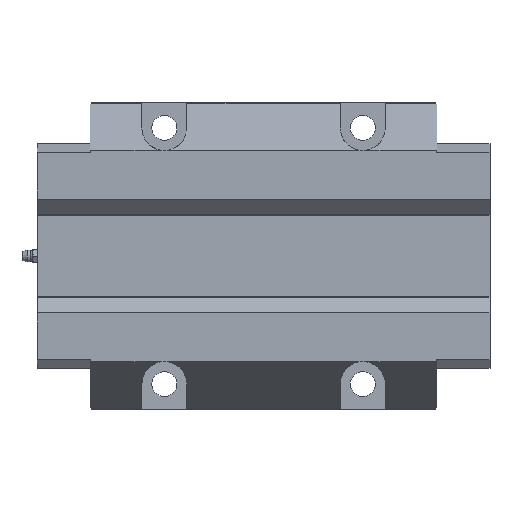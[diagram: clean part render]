
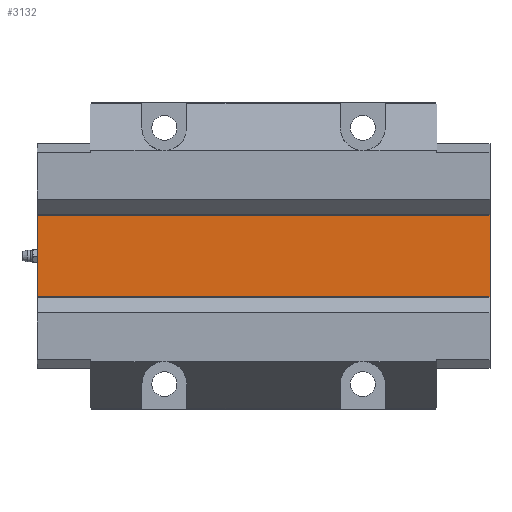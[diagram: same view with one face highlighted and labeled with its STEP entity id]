
A CAD part, front view. The second image highlights one B-rep face of the part: STEP entity #3132.
In plain terms, the highlighted planar face has unit normal (0, -1, 0).
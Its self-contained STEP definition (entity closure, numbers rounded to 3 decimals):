
#833=ORIENTED_EDGE('',*,*,#1270,.F.);
#834=ORIENTED_EDGE('',*,*,#1451,.F.);
#835=ORIENTED_EDGE('',*,*,#1213,.T.);
#836=ORIENTED_EDGE('',*,*,#1452,.T.);
#1213=EDGE_CURVE('',#1633,#1632,#1926,.T.);
#1270=EDGE_CURVE('',#1686,#1687,#1962,.T.);
#1451=EDGE_CURVE('',#1633,#1686,#2113,.T.);
#1452=EDGE_CURVE('',#1632,#1687,#2114,.T.);
#1632=VERTEX_POINT('',#4677);
#1633=VERTEX_POINT('',#4679);
#1686=VERTEX_POINT('',#4789);
#1687=VERTEX_POINT('',#4791);
#1926=LINE('',#4678,#2200);
#1962=LINE('',#4790,#2236);
#2113=LINE('',#5149,#2387);
#2114=LINE('',#5151,#2388);
#2200=VECTOR('',#3723,1000.);
#2236=VECTOR('',#3803,1000.);
#2387=VECTOR('',#4166,1000.);
#2388=VECTOR('',#4169,1000.);
#2525=EDGE_LOOP('',(#833,#834,#835,#836));
#2781=FACE_BOUND('',#2525,.T.);
#2997=PLANE('',#3424);
#3132=ADVANCED_FACE('',(#2781),#2997,.T.);
#3424=AXIS2_PLACEMENT_3D('',#5150,#4167,#4168);
#3723=DIRECTION('',(0.,0.,1.));
#3803=DIRECTION('',(0.,0.,1.));
#4166=DIRECTION('',(-1.,0.,0.));
#4167=DIRECTION('',(0.,-1.,0.));
#4168=DIRECTION('',(0.,0.,-1.));
#4169=DIRECTION('',(-1.,0.,0.));
#4677=CARTESIAN_POINT('',(125.5,45.7,30.47));
#4678=CARTESIAN_POINT('',(125.5,45.7,-30.47));
#4679=CARTESIAN_POINT('',(125.5,45.7,-30.47));
#4789=CARTESIAN_POINT('',(-125.5,45.7,-30.47));
#4790=CARTESIAN_POINT('',(-125.5,45.7,-30.47));
#4791=CARTESIAN_POINT('',(-125.5,45.7,30.47));
#5149=CARTESIAN_POINT('',(125.5,45.7,-30.47));
#5150=CARTESIAN_POINT('',(125.5,45.7,-30.47));
#5151=CARTESIAN_POINT('',(125.5,45.7,30.47));
